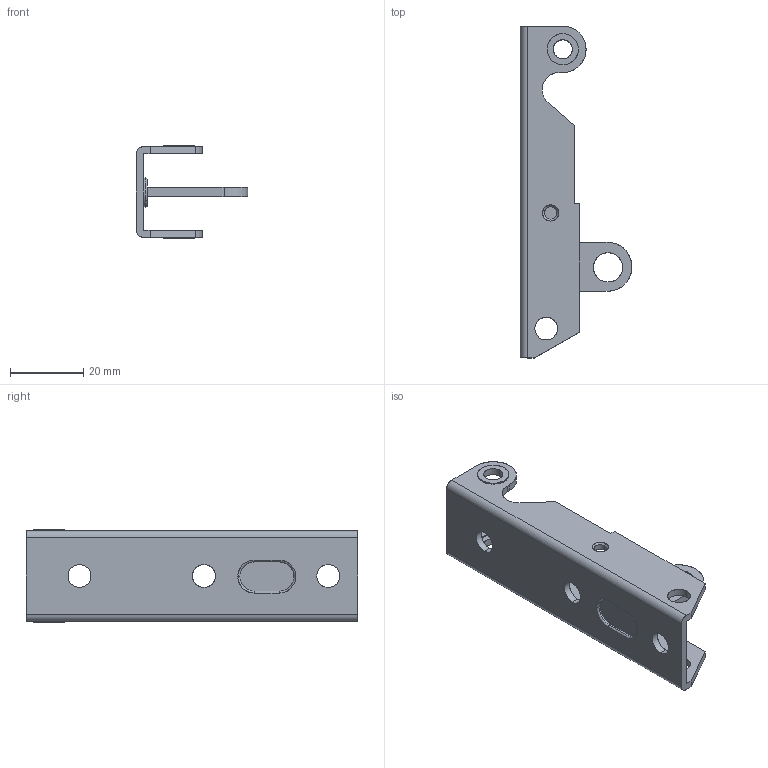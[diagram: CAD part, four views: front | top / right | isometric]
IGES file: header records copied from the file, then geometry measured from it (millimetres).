
Start section: SolidWorks IGES FILE using analytic representation for surfaces
Global section: file name: C:\Documents and Settings\lecoutey\Bureau\GO 80\80.020.10.IGS; native system: SolidWorks 2004 by SolidWorks Corporation; preprocessor: Version 5.3; author: lecoutey; date: 050329.120210; units: millimetre
Bounding box: 30.5 x 90.7 x 25.4 mm (x, y, z)
Surface area: 10145.3 mm2 (no closed solid volume)
Topology: 0 solids, 0 shells, 90 faces, 1516 edges, 1516 vertices
Faces by surface type: revolution 47, bspline 43
